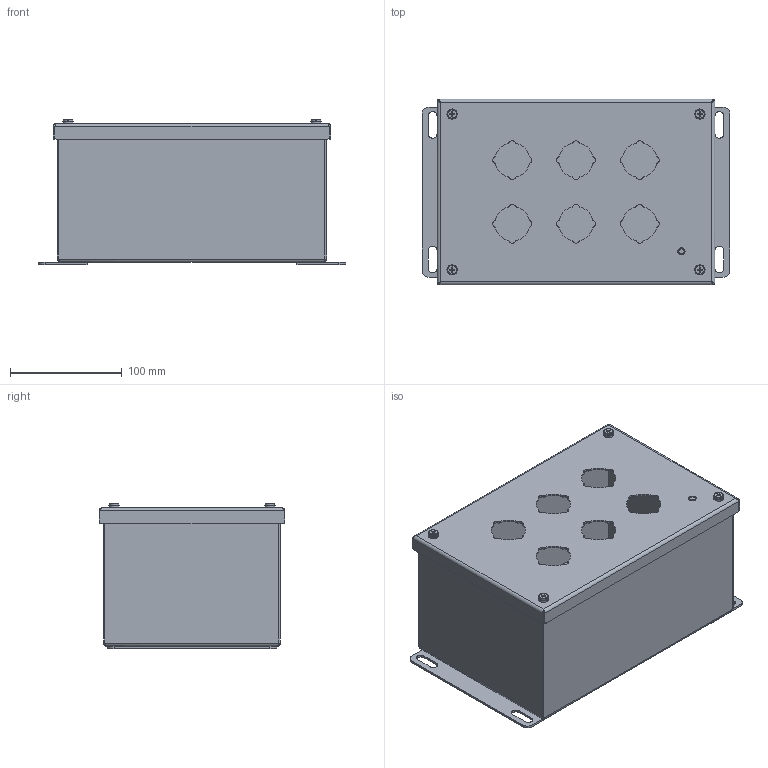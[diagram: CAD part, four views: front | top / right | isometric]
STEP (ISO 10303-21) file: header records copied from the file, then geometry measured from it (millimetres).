
FILE_DESCRIPTION((''),'2;1');
FILE_NAME('MODEL-394_ASM','2025-09-16T08:45:40',('joshi'),('SAGINAW CONTROL & ENGINEERING'),'CREO PARAMETRIC BY PTC INC, 2021284','CREO PARAMETRIC BY PTC INC, 2021284','');
FILE_SCHEMA(('AUTOMOTIVE_DESIGN { 1 0 10303 214 1 1 1 1 }'));
Length unit declared in the file: inch
Products named in the file (10): MODEL-394-BDY; MODEL-394-DR; 100097; 102200; 101966; 100012; 102599; 102534; MODEL-394-GSKT; MODEL-394_ASM
Assembly tree (16 placements, depth 2):
  MODEL-394_ASM
    MODEL-394-BDY
    MODEL-394-DR
    100097
    102200  x2
    101966
    100012
    102599  x4
    102534  x4
    MODEL-394-GSKT
Bounding box: 276.23 x 166.69 x 130.14 mm (x, y, z)
Volume: 326386.1 mm3; surface area: 427076.1 mm2
Topology: 19 solids, 19 shells, 803 faces, 2026 edges, 1204 vertices
Faces by surface type: cylinder 314, plane 265, bspline 108, torus 88, cone 28
Entity records: 23656 total; most frequent: CARTESIAN_POINT 6063, DIRECTION 2580, ORIENTED_EDGE 2440, EDGE_CURVE 1220, PRESENTATION_STYLE_ASSIGNMENT 1132, STYLED_ITEM 1132, CURVE_STYLE 1056, AXIS2_PLACEMENT_3D 971
